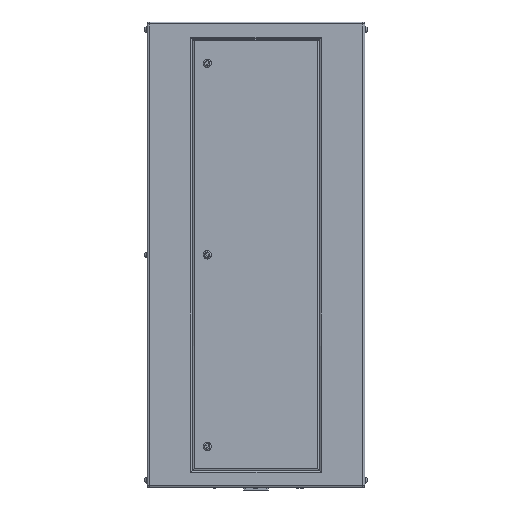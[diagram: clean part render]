
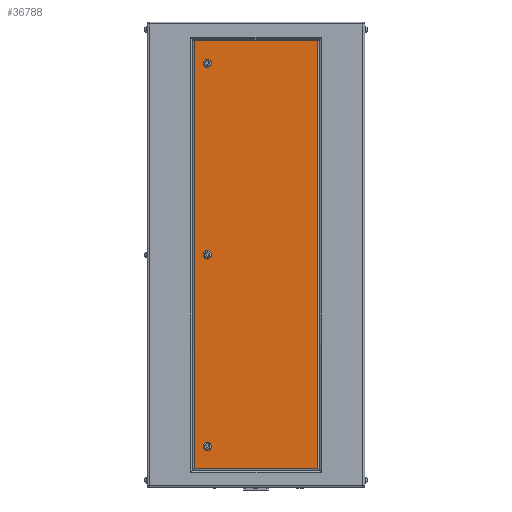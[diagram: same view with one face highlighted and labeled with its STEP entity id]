
A CAD part, left-side view. The second image highlights one B-rep face of the part: STEP entity #36788.
In plain terms, the highlighted planar face has unit normal (-1, 0, 0).
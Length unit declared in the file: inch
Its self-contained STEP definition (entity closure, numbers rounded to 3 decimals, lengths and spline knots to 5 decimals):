
#227 = VERTEX_POINT ( 'NONE', #19495 ) ;
#624 = AXIS2_PLACEMENT_3D ( 'NONE', #30534, #25226, #4377 ) ;
#832 = AXIS2_PLACEMENT_3D ( 'NONE', #35939, #29898, #32560 ) ;
#1455 = EDGE_CURVE ( 'NONE', #26761, #19327, #10509, .T. ) ;
#1914 = AXIS2_PLACEMENT_3D ( 'NONE', #17623, #8306, #14012 ) ;
#2234 = DIRECTION ( 'NONE',  ( 0., 0., -1. ) ) ;
#2850 = VECTOR ( 'NONE', #30505, 39.37008 ) ;
#3093 = CARTESIAN_POINT ( 'NONE',  ( -17., 14.5, -31. ) ) ;
#4077 = EDGE_CURVE ( 'NONE', #36943, #30125, #16992, .T. ) ;
#4364 = CIRCLE ( 'NONE', #1914, 0.55 ) ;
#4377 = DIRECTION ( 'NONE',  ( 0., 0., -1. ) ) ;
#4870 = LINE ( 'NONE', #11119, #36832 ) ;
#5061 = DIRECTION ( 'NONE',  ( 1., 0., 0. ) ) ;
#5071 = AXIS2_PLACEMENT_3D ( 'NONE', #3093, #9150, #14668 ) ;
#5717 = DIRECTION ( 'NONE',  ( 0., 0., -1. ) ) ;
#5726 = FACE_BOUND ( 'NONE', #19741, .T. ) ;
#5918 = FACE_BOUND ( 'NONE', #25626, .T. ) ;
#6038 = AXIS2_PLACEMENT_3D ( 'NONE', #31041, #16481, #28030 ) ;
#6093 = EDGE_CURVE ( 'NONE', #13248, #33159, #34738, .T. ) ;
#6215 = ORIENTED_EDGE ( 'NONE', *, *, #36478, .T. ) ;
#6410 = VERTEX_POINT ( 'NONE', #26706 ) ;
#7070 = EDGE_LOOP ( 'NONE', ( #9994, #6215 ) ) ;
#7434 = ORIENTED_EDGE ( 'NONE', *, *, #6093, .T. ) ;
#7636 = CARTESIAN_POINT ( 'NONE',  ( -17., 6.5, 0.55 ) ) ;
#8306 = DIRECTION ( 'NONE',  ( 1., 0., 0. ) ) ;
#8719 = EDGE_CURVE ( 'NONE', #22806, #6410, #26263, .T. ) ;
#9150 = DIRECTION ( 'NONE',  ( 1., 0., 0. ) ) ;
#9289 = AXIS2_PLACEMENT_3D ( 'NONE', #10951, #5061, #24832 ) ;
#9839 = LINE ( 'NONE', #30686, #2850 ) ;
#9994 = ORIENTED_EDGE ( 'NONE', *, *, #4077, .T. ) ;
#10044 = CARTESIAN_POINT ( 'NONE',  ( -17., 8.24, 28.49 ) ) ;
#10509 = CIRCLE ( 'NONE', #832, 0.55 ) ;
#10702 = EDGE_CURVE ( 'NONE', #227, #24731, #27323, .T. ) ;
#10951 = CARTESIAN_POINT ( 'NONE',  ( -17., 6.5, 0. ) ) ;
#10972 = CARTESIAN_POINT ( 'NONE',  ( -17., 6.5, -0.55 ) ) ;
#11119 = CARTESIAN_POINT ( 'NONE',  ( -17., 14.5, -28.49 ) ) ;
#11919 = CARTESIAN_POINT ( 'NONE',  ( -17., -8.24, 28.49 ) ) ;
#11990 = FACE_BOUND ( 'NONE', #7070, .T. ) ;
#12168 = CARTESIAN_POINT ( 'NONE',  ( -17., 8.24, -31. ) ) ;
#12178 = AXIS2_PLACEMENT_3D ( 'NONE', #25771, #31064, #2234 ) ;
#13248 = VERTEX_POINT ( 'NONE', #10044 ) ;
#13339 = ORIENTED_EDGE ( 'NONE', *, *, #14736, .T. ) ;
#14012 = DIRECTION ( 'NONE',  ( 0., 0., -1. ) ) ;
#14668 = DIRECTION ( 'NONE',  ( 0., 0., -1. ) ) ;
#14716 = ORIENTED_EDGE ( 'NONE', *, *, #1455, .T. ) ;
#14736 = EDGE_CURVE ( 'NONE', #24731, #13248, #9839, .T. ) ;
#14844 = CARTESIAN_POINT ( 'NONE',  ( -17., 8.24, -28.49 ) ) ;
#16039 = ORIENTED_EDGE ( 'NONE', *, *, #10702, .T. ) ;
#16481 = DIRECTION ( 'NONE',  ( 1., 0., 0. ) ) ;
#16992 = CIRCLE ( 'NONE', #624, 0.55 ) ;
#17623 = CARTESIAN_POINT ( 'NONE',  ( -17., 6.5, -25.5 ) ) ;
#18411 = CARTESIAN_POINT ( 'NONE',  ( -17., -8.24, -31. ) ) ;
#19327 = VERTEX_POINT ( 'NONE', #27218 ) ;
#19495 = CARTESIAN_POINT ( 'NONE',  ( -17., -8.24, -28.49 ) ) ;
#19741 = EDGE_LOOP ( 'NONE', ( #28428, #30232 ) ) ;
#22380 = CIRCLE ( 'NONE', #6038, 0.55 ) ;
#22806 = VERTEX_POINT ( 'NONE', #27161 ) ;
#23340 = EDGE_CURVE ( 'NONE', #19327, #26761, #22380, .T. ) ;
#23384 = VECTOR ( 'NONE', #29607, 39.37008 ) ;
#23579 = FACE_OUTER_BOUND ( 'NONE', #26994, .T. ) ;
#24701 = EDGE_CURVE ( 'NONE', #6410, #22806, #4364, .T. ) ;
#24731 = VERTEX_POINT ( 'NONE', #11919 ) ;
#24832 = DIRECTION ( 'NONE',  ( 0., 0., -1. ) ) ;
#25226 = DIRECTION ( 'NONE',  ( 1., 0., 0. ) ) ;
#25626 = EDGE_LOOP ( 'NONE', ( #14716, #31783 ) ) ;
#25771 = CARTESIAN_POINT ( 'NONE',  ( -17., 6.5, -25.5 ) ) ;
#26040 = VECTOR ( 'NONE', #5717, 39.37008 ) ;
#26263 = CIRCLE ( 'NONE', #12178, 0.55 ) ;
#26706 = CARTESIAN_POINT ( 'NONE',  ( -17., 6.5, -26.05 ) ) ;
#26761 = VERTEX_POINT ( 'NONE', #32342 ) ;
#26994 = EDGE_LOOP ( 'NONE', ( #28522, #16039, #13339, #7434 ) ) ;
#27161 = CARTESIAN_POINT ( 'NONE',  ( -17., 6.5, -24.95 ) ) ;
#27218 = CARTESIAN_POINT ( 'NONE',  ( -17., 6.5, 26.05 ) ) ;
#27323 = LINE ( 'NONE', #18411, #23384 ) ;
#27844 = DIRECTION ( 'NONE',  ( 0., -1., 0. ) ) ;
#28030 = DIRECTION ( 'NONE',  ( 0., 0., -1. ) ) ;
#28395 = EDGE_CURVE ( 'NONE', #33159, #227, #4870, .T. ) ;
#28428 = ORIENTED_EDGE ( 'NONE', *, *, #24701, .T. ) ;
#28522 = ORIENTED_EDGE ( 'NONE', *, *, #28395, .T. ) ;
#29078 = PLANE ( 'NONE',  #5071 ) ;
#29607 = DIRECTION ( 'NONE',  ( 0., 0., 1. ) ) ;
#29898 = DIRECTION ( 'NONE',  ( 1., 0., 0. ) ) ;
#30125 = VERTEX_POINT ( 'NONE', #7636 ) ;
#30232 = ORIENTED_EDGE ( 'NONE', *, *, #8719, .T. ) ;
#30505 = DIRECTION ( 'NONE',  ( 0., 1., 0. ) ) ;
#30534 = CARTESIAN_POINT ( 'NONE',  ( -17., 6.5, 0. ) ) ;
#30686 = CARTESIAN_POINT ( 'NONE',  ( -17., 14.5, 28.49 ) ) ;
#31041 = CARTESIAN_POINT ( 'NONE',  ( -17., 6.5, 25.5 ) ) ;
#31064 = DIRECTION ( 'NONE',  ( 1., 0., 0. ) ) ;
#31783 = ORIENTED_EDGE ( 'NONE', *, *, #23340, .T. ) ;
#32342 = CARTESIAN_POINT ( 'NONE',  ( -17., 6.5, 24.95 ) ) ;
#32560 = DIRECTION ( 'NONE',  ( 0., 0., -1. ) ) ;
#33159 = VERTEX_POINT ( 'NONE', #14844 ) ;
#34738 = LINE ( 'NONE', #12168, #26040 ) ;
#35939 = CARTESIAN_POINT ( 'NONE',  ( -17., 6.5, 25.5 ) ) ;
#36478 = EDGE_CURVE ( 'NONE', #30125, #36943, #37154, .T. ) ;
#36788 = ADVANCED_FACE ( 'NONE', ( #5726, #11990, #5918, #23579 ), #29078, .F. ) ;
#36832 = VECTOR ( 'NONE', #27844, 39.37008 ) ;
#36943 = VERTEX_POINT ( 'NONE', #10972 ) ;
#37154 = CIRCLE ( 'NONE', #9289, 0.55 ) ;
